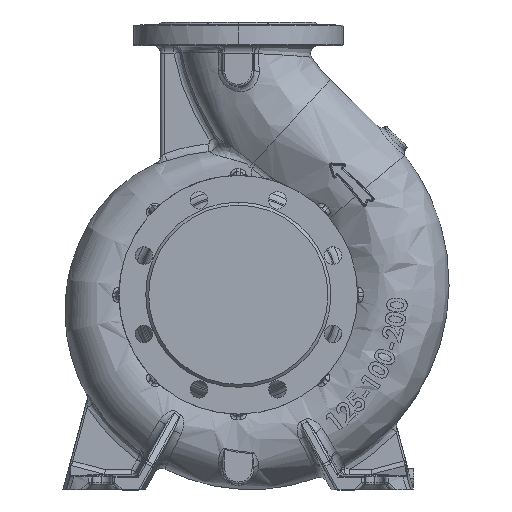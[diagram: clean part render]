
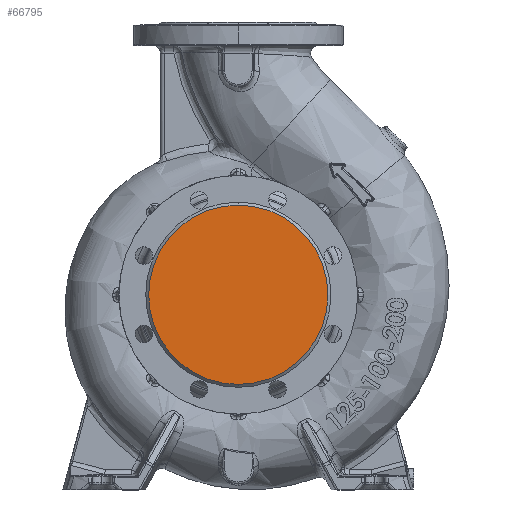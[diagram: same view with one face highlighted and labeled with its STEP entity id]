
A CAD part, top view. The second image highlights one B-rep face of the part: STEP entity #66795.
In plain terms, the highlighted planar face has unit normal (0, 0, 1).
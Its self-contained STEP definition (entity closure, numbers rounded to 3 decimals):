
#17192 = CIRCLE ( 'NONE', #90867, 92. ) ;
#19650 = PLANE ( 'NONE',  #48209 ) ;
#19801 = AXIS2_PLACEMENT_3D ( 'NONE', #62585, #56740, #93584 ) ;
#21792 = EDGE_LOOP ( 'NONE', ( #88606, #39756 ) ) ;
#25993 = DIRECTION ( 'NONE',  ( 0., 0., 1. ) ) ;
#28406 = VERTEX_POINT ( 'NONE', #77789 ) ;
#33391 = CARTESIAN_POINT ( 'NONE',  ( 0., 0., 125. ) ) ;
#39756 = ORIENTED_EDGE ( 'NONE', *, *, #48948, .T. ) ;
#41470 = DIRECTION ( 'NONE',  ( 0., -1., 0. ) ) ;
#46135 = CIRCLE ( 'NONE', #19801, 92. ) ;
#48209 = AXIS2_PLACEMENT_3D ( 'NONE', #71588, #92985, #48691 ) ;
#48691 = DIRECTION ( 'NONE',  ( 0., -1., 0. ) ) ;
#48895 = CARTESIAN_POINT ( 'NONE',  ( 0., -92., 125. ) ) ;
#48948 = EDGE_CURVE ( 'NONE', #80064, #28406, #17192, .T. ) ;
#56740 = DIRECTION ( 'NONE',  ( 0., 0., 1. ) ) ;
#62585 = CARTESIAN_POINT ( 'NONE',  ( 0., 0., 125. ) ) ;
#63503 = FACE_OUTER_BOUND ( 'NONE', #21792, .T. ) ;
#66795 = ADVANCED_FACE ( 'NONE', ( #63503 ), #19650, .T. ) ;
#71588 = CARTESIAN_POINT ( 'NONE',  ( 0., 0., 125. ) ) ;
#77789 = CARTESIAN_POINT ( 'NONE',  ( 0., 92., 125. ) ) ;
#80064 = VERTEX_POINT ( 'NONE', #48895 ) ;
#82127 = EDGE_CURVE ( 'NONE', #28406, #80064, #46135, .T. ) ;
#88606 = ORIENTED_EDGE ( 'NONE', *, *, #82127, .T. ) ;
#90867 = AXIS2_PLACEMENT_3D ( 'NONE', #33391, #25993, #41470 ) ;
#92985 = DIRECTION ( 'NONE',  ( 0., 0., 1. ) ) ;
#93584 = DIRECTION ( 'NONE',  ( 0., -1., 0. ) ) ;
